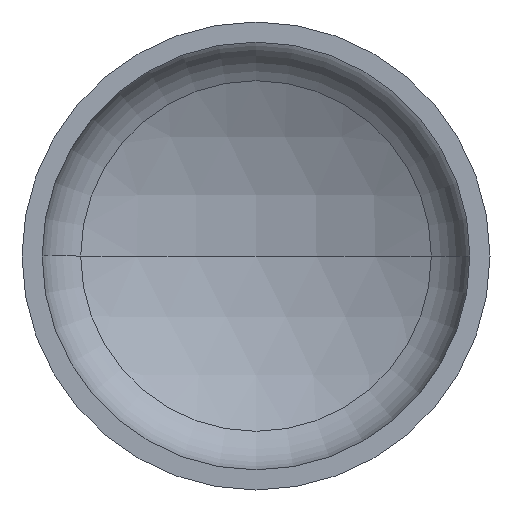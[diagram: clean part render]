
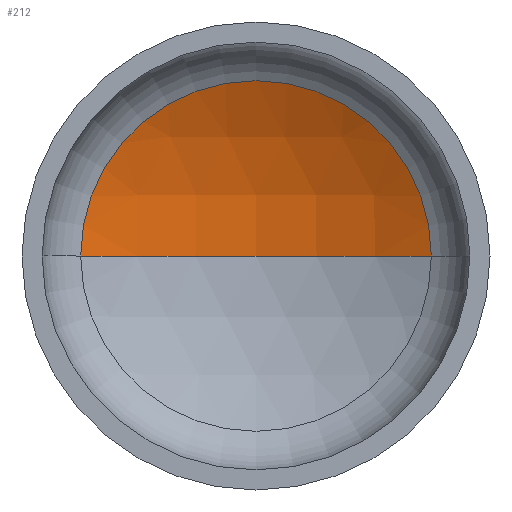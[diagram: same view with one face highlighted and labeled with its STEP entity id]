
A CAD part, front view. The second image highlights one B-rep face of the part: STEP entity #212.
In plain terms, the highlighted spherical face has radius 1600 mm.
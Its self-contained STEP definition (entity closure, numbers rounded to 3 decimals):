
#19 = CARTESIAN_POINT ( 'NONE',  ( 0., -1039.861, 0. ) ) ;
#23 = CARTESIAN_POINT ( 'NONE',  ( 0., 560.139, 0. ) ) ;
#24 = AXIS2_PLACEMENT_3D ( 'NONE', #19, #404, #402 ) ;
#29 = AXIS2_PLACEMENT_3D ( 'NONE', #31, #154, #155 ) ;
#31 = CARTESIAN_POINT ( 'NONE',  ( 0., -1039.861, 0. ) ) ;
#32 = AXIS2_PLACEMENT_3D ( 'NONE', #220, #219, #216 ) ;
#35 = AXIS2_PLACEMENT_3D ( 'NONE', #228, #227, #248 ) ;
#50 = VERTEX_POINT ( 'NONE', #224 ) ;
#71 = VERTEX_POINT ( 'NONE', #406 ) ;
#116 = CIRCLE ( 'NONE', #32, 1600. ) ;
#151 = EDGE_CURVE ( 'NONE', #50, #71, #172, .T. ) ;
#154 = DIRECTION ( 'NONE',  ( 0., 0., 1. ) ) ;
#155 = DIRECTION ( 'NONE',  ( 1., 0., 0. ) ) ;
#171 = EDGE_CURVE ( 'NONE', #187, #50, #116, .T. ) ;
#172 = CIRCLE ( 'NONE', #35, 749.147 ) ;
#187 = VERTEX_POINT ( 'NONE', #23 ) ;
#192 = EDGE_CURVE ( 'NONE', #187, #71, #237, .T. ) ;
#212 = ADVANCED_FACE ( 'NONE', ( #385 ), #379, .F. ) ;
#216 = DIRECTION ( 'NONE',  ( -1., 0., 0. ) ) ;
#219 = DIRECTION ( 'NONE',  ( 0., 0., -1. ) ) ;
#220 = CARTESIAN_POINT ( 'NONE',  ( 0., -1039.861, 0. ) ) ;
#224 = CARTESIAN_POINT ( 'NONE',  ( 749.147, 373.92, 0. ) ) ;
#227 = DIRECTION ( 'NONE',  ( 0., -1., 0. ) ) ;
#228 = CARTESIAN_POINT ( 'NONE',  ( 0., 373.92, 0. ) ) ;
#237 = CIRCLE ( 'NONE', #29, 1600. ) ;
#248 = DIRECTION ( 'NONE',  ( 1., 0., 0. ) ) ;
#295 = EDGE_LOOP ( 'NONE', ( #316, #352, #390 ) ) ;
#316 = ORIENTED_EDGE ( 'NONE', *, *, #192, .F. ) ;
#352 = ORIENTED_EDGE ( 'NONE', *, *, #171, .T. ) ;
#379 = SPHERICAL_SURFACE ( 'NONE', #24, 1600. ) ;
#385 = FACE_OUTER_BOUND ( 'NONE', #295, .T. ) ;
#390 = ORIENTED_EDGE ( 'NONE', *, *, #151, .T. ) ;
#402 = DIRECTION ( 'NONE',  ( -1., 0., 0. ) ) ;
#404 = DIRECTION ( 'NONE',  ( 0., 0., -1. ) ) ;
#406 = CARTESIAN_POINT ( 'NONE',  ( -749.147, 373.92, 0. ) ) ;
